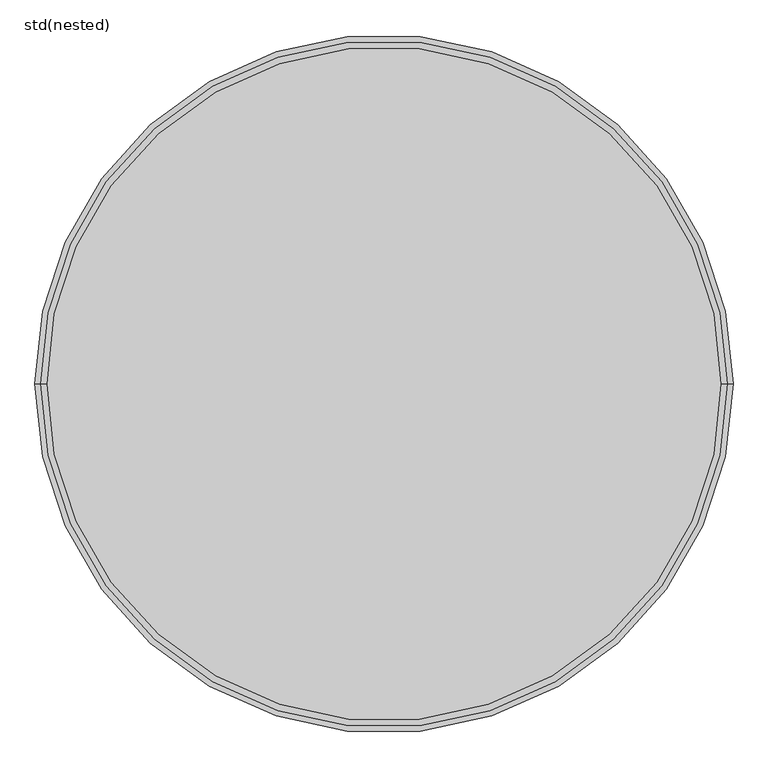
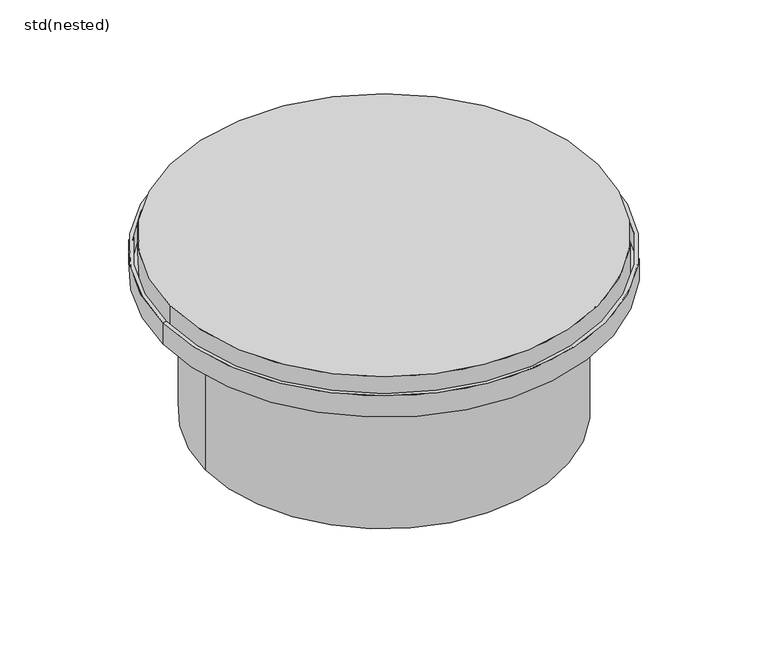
"""IFC4 building model written with IfcOpenShell, lengths in millimetres: unitary equipment geometry, ZZZ_do not use_ME_WPB_top sections_plastic_ACO : std(nested)."""

from ifc_helpers import new_model, si_unit, point, frame, origin, origin_2d, place, context, project, spatial, polyline, circle_curve, trimmed, segment, composite_curve, outline, extrude, source, transform, mapped, element, save
from ifc_brep_helpers import plane_surface, cylinder_surface, revolved_surface, advanced_brep


def std_nested_1232a2d1(model_context):
    return source(origin(), model_context, "Body", "SolidModel", [
        advanced_brep(
        [(-510.0, 0.0, -35.0), (510.0, 0.0, -35.0), (518.0, 0.0, -35.0), (-518.0, 0.0, -35.0), (-510.0, 0.0, -80.0), (510.0, 0.0, -80.0), (-410.0, 0.0, -80.0), (410.0, 0.0, -80.0), (-410.0, 0.0, -434.0), (410.0, 0.0, -434.0), (-418.0, 0.0, -434.0), (418.0, 0.0, -434.0), (-418.0, 0.0, -88.0), (418.0, 0.0, -88.0), (-518.0, 0.0, -88.0), (518.0, 0.0, -88.0)],
        [
            (0, 1, circle_curve(frame((0.0, 0.0, -35.0), z_axis=(0.0, 0.0, -1.0), x_axis=(1.0, 0.0, 0.0)), 510.0)),
            (1, 2),
            (2, 3, circle_curve(frame((0.0, 0.0, -35.0), z_axis=(0.0, 0.0, 1.0), x_axis=(1.0, 0.0, 0.0)), 518.0)),
            (3, 0),
            (1, 0, circle_curve(frame((0.0, 0.0, -35.0), z_axis=(0.0, 0.0, -1.0), x_axis=(1.0, 0.0, 0.0)), 510.0)),
            (3, 2, circle_curve(frame((0.0, 0.0, -35.0), z_axis=(0.0, 0.0, 1.0), x_axis=(1.0, 0.0, 0.0)), 518.0)),
            (4, 5, circle_curve(frame((0.0, 0.0, -80.0), z_axis=(0.0, 0.0, -1.0), x_axis=(1.0, 0.0, 0.0)), 510.0)),
            (5, 1),
            (0, 4),
            (5, 4, circle_curve(frame((0.0, 0.0, -80.0), z_axis=(0.0, 0.0, -1.0), x_axis=(1.0, 0.0, 0.0)), 510.0)),
            (6, 7, circle_curve(frame((0.0, 0.0, -80.0), z_axis=(0.0, 0.0, -1.0), x_axis=(1.0, 0.0, 0.0)), 410.0)),
            (7, 5),
            (4, 6),
            (7, 6, circle_curve(frame((0.0, 0.0, -80.0), z_axis=(0.0, 0.0, -1.0), x_axis=(1.0, 0.0, 0.0)), 410.0)),
            (8, 9, circle_curve(frame((0.0, 0.0, -434.0), z_axis=(0.0, 0.0, -1.0), x_axis=(1.0, 0.0, 0.0)), 410.0)),
            (9, 7),
            (6, 8),
            (9, 8, circle_curve(frame((0.0, 0.0, -434.0), z_axis=(0.0, 0.0, -1.0), x_axis=(1.0, 0.0, 0.0)), 410.0)),
            (10, 11, circle_curve(frame((0.0, 0.0, -434.0), z_axis=(0.0, 0.0, -1.0), x_axis=(1.0, 0.0, 0.0)), 418.0)),
            (11, 9),
            (8, 10),
            (11, 10, circle_curve(frame((0.0, 0.0, -434.0), z_axis=(0.0, 0.0, -1.0), x_axis=(1.0, 0.0, 0.0)), 418.0)),
            (12, 13, circle_curve(frame((0.0, 0.0, -88.0), z_axis=(0.0, 0.0, -1.0), x_axis=(1.0, 0.0, 0.0)), 418.0)),
            (13, 11),
            (10, 12),
            (13, 12, circle_curve(frame((0.0, 0.0, -88.0), z_axis=(0.0, 0.0, -1.0), x_axis=(1.0, 0.0, 0.0)), 418.0)),
            (14, 15, circle_curve(frame((0.0, 0.0, -88.0), z_axis=(0.0, 0.0, -1.0), x_axis=(1.0, 0.0, 0.0)), 518.0)),
            (15, 13),
            (12, 14),
            (15, 14, circle_curve(frame((0.0, 0.0, -88.0), z_axis=(0.0, 0.0, -1.0), x_axis=(1.0, 0.0, 0.0)), 518.0)),
            (2, 15),
            (14, 3),
        ],
        [
            plane_surface(frame((0.0, 0.0, -35.0), z_axis=(0.0, 0.0, 1.0), x_axis=(1.0, 0.0, 0.0))),
            revolved_surface(polyline([(510.0, 0.0, -35.0), (510.0, 0.0, -80.0)]), (0.0, 0.0, 240.0), (0.0, 0.0, 1.0)),
            plane_surface(frame((0.0, 0.0, -80.0), z_axis=(0.0, 0.0, 1.0), x_axis=(1.0, 0.0, 0.0))),
            revolved_surface(polyline([(410.0, 0.0, -80.0), (410.0, 0.0, -434.0)]), (0.0, 0.0, 240.0), (0.0, 0.0, 1.0)),
            plane_surface(frame((0.0, 0.0, -434.0), z_axis=(0.0, 0.0, -1.0), x_axis=(1.0, 0.0, 0.0))),
            cylinder_surface(frame((0.0, 0.0, 240.0), z_axis=(0.0, 0.0, 1.0), x_axis=(1.0, 0.0, 0.0)), 418.0),
            plane_surface(frame((0.0, 0.0, -88.0), z_axis=(0.0, 0.0, -1.0), x_axis=(1.0, 0.0, 0.0))),
            cylinder_surface(frame((0.0, 0.0, 240.0), z_axis=(0.0, 0.0, 1.0), x_axis=(1.0, 0.0, 0.0)), 518.0),
        ],
        [
            (0, [[1, 2, 3, 4]]),
            (0, [[5, -4, 6, -2]]),
            (1, [[7, 8, -1, 9]]),
            (1, [[10, -9, -5, -8]]),
            (2, [[11, 12, -7, 13]]),
            (2, [[14, -13, -10, -12]]),
            (3, [[15, 16, -11, 17]]),
            (3, [[18, -17, -14, -16]]),
            (4, [[19, 20, -15, 21]]),
            (4, [[22, -21, -18, -20]]),
            (5, [[23, 24, -19, 25]]),
            (5, [[26, -25, -22, -24]]),
            (6, [[27, 28, -23, 29]]),
            (6, [[30, -29, -26, -28]]),
            (7, [[-3, 31, -27, 32]]),
            (7, [[-6, -32, -30, -31]]),
        ],
    ),
        extrude(outline(composite_curve([segment(trimmed(circle_curve(origin_2d(), 500.0), [point((-500.0, 0.0))], [point((500.0, 0.0))], False, "CARTESIAN"), True, "CONTINUOUS"), segment(trimmed(circle_curve(origin_2d(), 500.0), [point((500.0, 0.0))], [point((-500.0, 0.0))], False, "CARTESIAN"), True, "CONTINUOUS")], self_intersect=False)), frame((0.0, 0.0, -80.0), z_axis=(0.0, 0.0, 1.0), x_axis=(1.0, 0.0, 0.0)), (0.0, 0.0, 1.0), 80.0),
    ])


if __name__ == "__main__":
    model = new_model("IFC4")
    model_context = context("Model", 3, world=origin())
    ifc_project = project(units=[si_unit("LENGTHUNIT", "METRE", prefix="MILLI")], contexts=[model_context])
    site = spatial("IfcSite", under=ifc_project)
    building = spatial("IfcBuilding", under=site)
    placement = place(None, origin())
    std_nested_shape = std_nested_1232a2d1(model_context)
    element("IfcUnitaryEquipment", 1, ObjectType="ZZZ_do not use_ME_WPB_top sections_plastic_ACO : std(nested)", at=placement, inside=building, context=model_context, shape_type="MappedRepresentation", body=[
        mapped(std_nested_shape, transform((0.0, 0.0, 0.0), x_axis=(1.0, 0.0, 0.0), y_axis=(0.0, 1.0, 0.0), z_axis=(0.0, 0.0, 1.0))),
    ])
    save(model, "model.ifc")
